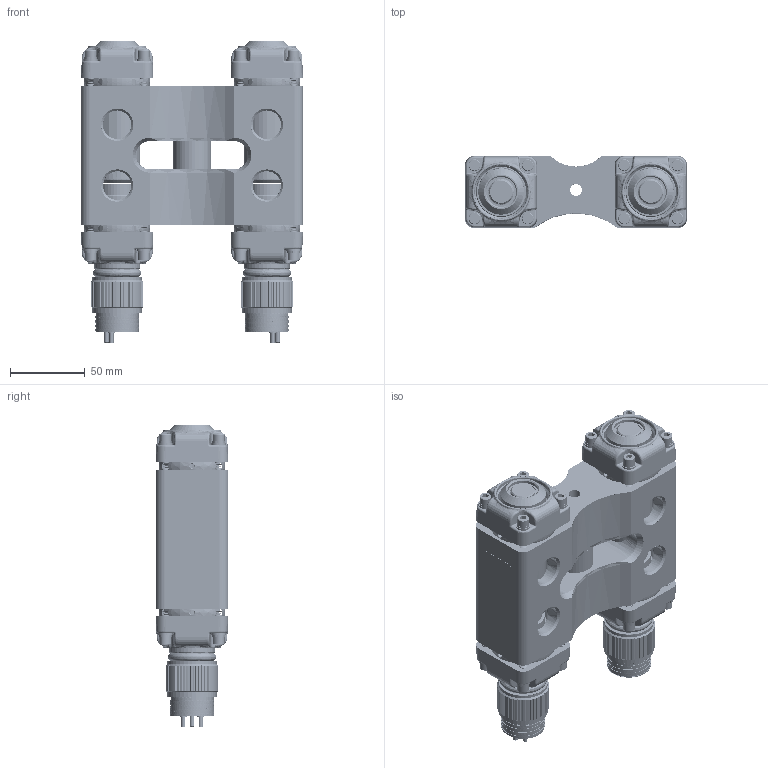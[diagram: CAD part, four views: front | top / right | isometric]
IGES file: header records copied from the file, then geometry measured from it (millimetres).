
Start section: SolidWorks IGES file using analytic representation for surfaces
Global section: file name: S:\3D_Product_Models\Lasers\SeaLaser100-MCBH2-0A-B-20140709a_WithDualBracket.IGS; native system: SolidWorks 2014; preprocessor: SolidWorks 2014; author: CJ_Chew; date: 140709.085614; units: millimetre
Bounding box: 148.84 x 48.26 x 201.68 mm (x, y, z)
Surface area: 192675.3 mm2 (no closed solid volume)
Topology: 0 solids, 0 shells, 2156 faces, 30781 edges, 30781 vertices
Faces by surface type: bspline 1105, revolution 1051
